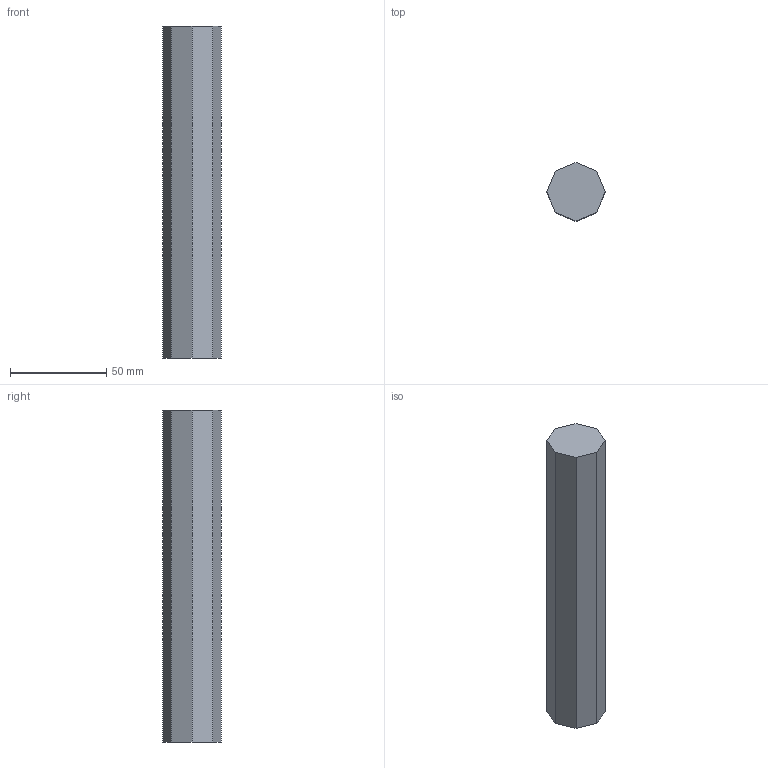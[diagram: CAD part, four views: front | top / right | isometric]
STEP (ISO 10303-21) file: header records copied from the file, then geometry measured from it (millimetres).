
FILE_DESCRIPTION(('Mechanical CAD reference from nasji.com'),'2;1');
FILE_NAME('NASJI.step','',(''),(''),'','NASJI distribution','');
FILE_SCHEMA(('AUTOMOTIVE_DESIGN { 1 0 10303 214 1 1 1 1 }'));
Length unit declared in the file: millimetre
Products named in the file (1): Open CASCADE STEP translator 7.8 220
Bounding box: 30.4 x 30.4 x 172.7 mm (x, y, z)
Volume: 112856 mm3; surface area: 17379.9 mm2
Topology: 1 solids, 1 shells, 10 faces, 24 edges, 16 vertices
Faces by surface type: plane 10
Entity records: 610 total; most frequent: CARTESIAN_POINT 99, DIRECTION 94, LINE 72, VECTOR 72, ORIENTED_EDGE 48, PCURVE 48, DEFINITIONAL_REPRESENTATION 48, EDGE_CURVE 24
